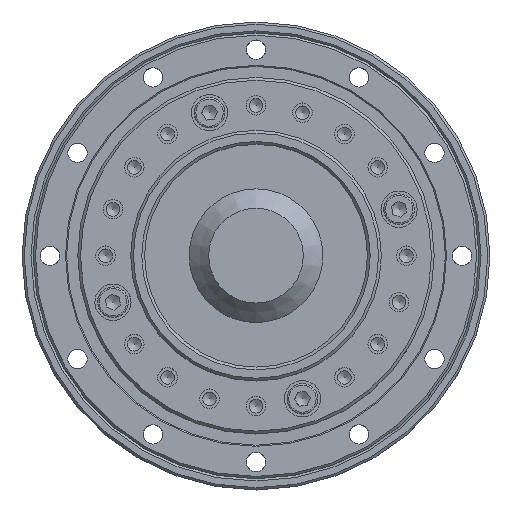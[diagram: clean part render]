
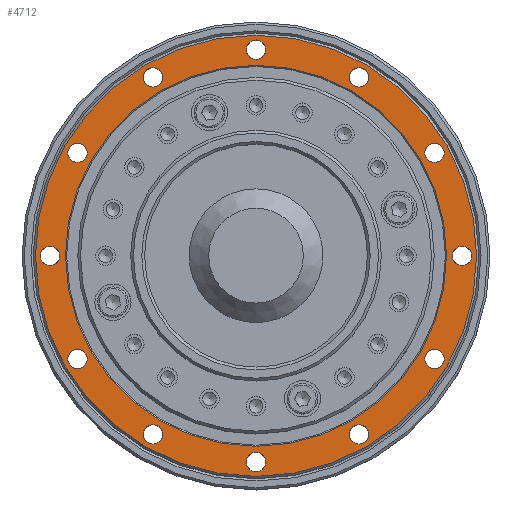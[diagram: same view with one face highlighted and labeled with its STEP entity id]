
A CAD part, top view. The second image highlights one B-rep face of the part: STEP entity #4712.
In plain terms, the highlighted planar face has unit normal (0, 0, 1).
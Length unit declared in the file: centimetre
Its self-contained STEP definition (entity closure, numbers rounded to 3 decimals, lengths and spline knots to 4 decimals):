
#473=PLANE('',#5261);
#696=FACE_BOUND('',#1556,.T.);
#697=FACE_BOUND('',#1557,.T.);
#698=FACE_BOUND('',#1558,.T.);
#699=FACE_BOUND('',#1559,.T.);
#700=FACE_BOUND('',#1560,.T.);
#701=FACE_BOUND('',#1561,.T.);
#702=FACE_BOUND('',#1562,.T.);
#703=FACE_BOUND('',#1563,.T.);
#704=FACE_BOUND('',#1564,.T.);
#705=FACE_BOUND('',#1565,.T.);
#706=FACE_BOUND('',#1566,.T.);
#707=FACE_BOUND('',#1567,.T.);
#708=FACE_BOUND('',#1568,.T.);
#1095=FACE_OUTER_BOUND('',#1555,.T.);
#1555=EDGE_LOOP('',(#3723));
#1556=EDGE_LOOP('',(#3724));
#1557=EDGE_LOOP('',(#3725));
#1558=EDGE_LOOP('',(#3726));
#1559=EDGE_LOOP('',(#3727));
#1560=EDGE_LOOP('',(#3728));
#1561=EDGE_LOOP('',(#3729));
#1562=EDGE_LOOP('',(#3730));
#1563=EDGE_LOOP('',(#3731));
#1564=EDGE_LOOP('',(#3732));
#1565=EDGE_LOOP('',(#3733));
#1566=EDGE_LOOP('',(#3734));
#1567=EDGE_LOOP('',(#3735));
#1568=EDGE_LOOP('',(#3736));
#2157=CIRCLE('',#5219,0.175);
#2159=CIRCLE('',#5222,0.175);
#2161=CIRCLE('',#5225,0.175);
#2163=CIRCLE('',#5228,0.175);
#2165=CIRCLE('',#5231,0.175);
#2167=CIRCLE('',#5234,0.175);
#2169=CIRCLE('',#5237,0.175);
#2171=CIRCLE('',#5240,0.175);
#2173=CIRCLE('',#5243,0.175);
#2175=CIRCLE('',#5246,0.175);
#2177=CIRCLE('',#5249,0.175);
#2179=CIRCLE('',#5252,0.175);
#2183=CIRCLE('',#5258,3.96);
#2185=CIRCLE('',#5262,3.42);
#2553=VERTEX_POINT('',#7840);
#2555=VERTEX_POINT('',#7845);
#2557=VERTEX_POINT('',#7850);
#2559=VERTEX_POINT('',#7855);
#2561=VERTEX_POINT('',#7860);
#2563=VERTEX_POINT('',#7865);
#2565=VERTEX_POINT('',#7870);
#2567=VERTEX_POINT('',#7875);
#2569=VERTEX_POINT('',#7880);
#2571=VERTEX_POINT('',#7885);
#2573=VERTEX_POINT('',#7890);
#2575=VERTEX_POINT('',#7895);
#2579=VERTEX_POINT('',#7905);
#2581=VERTEX_POINT('',#7911);
#3027=EDGE_CURVE('',#2553,#2553,#2157,.T.);
#3029=EDGE_CURVE('',#2555,#2555,#2159,.T.);
#3031=EDGE_CURVE('',#2557,#2557,#2161,.T.);
#3033=EDGE_CURVE('',#2559,#2559,#2163,.T.);
#3035=EDGE_CURVE('',#2561,#2561,#2165,.T.);
#3037=EDGE_CURVE('',#2563,#2563,#2167,.T.);
#3039=EDGE_CURVE('',#2565,#2565,#2169,.T.);
#3041=EDGE_CURVE('',#2567,#2567,#2171,.T.);
#3043=EDGE_CURVE('',#2569,#2569,#2173,.T.);
#3045=EDGE_CURVE('',#2571,#2571,#2175,.T.);
#3047=EDGE_CURVE('',#2573,#2573,#2177,.T.);
#3049=EDGE_CURVE('',#2575,#2575,#2179,.T.);
#3053=EDGE_CURVE('',#2579,#2579,#2183,.T.);
#3055=EDGE_CURVE('',#2581,#2581,#2185,.T.);
#3723=ORIENTED_EDGE('',*,*,#3053,.F.);
#3724=ORIENTED_EDGE('',*,*,#3049,.T.);
#3725=ORIENTED_EDGE('',*,*,#3047,.T.);
#3726=ORIENTED_EDGE('',*,*,#3045,.T.);
#3727=ORIENTED_EDGE('',*,*,#3043,.T.);
#3728=ORIENTED_EDGE('',*,*,#3041,.T.);
#3729=ORIENTED_EDGE('',*,*,#3039,.T.);
#3730=ORIENTED_EDGE('',*,*,#3037,.T.);
#3731=ORIENTED_EDGE('',*,*,#3035,.T.);
#3732=ORIENTED_EDGE('',*,*,#3033,.T.);
#3733=ORIENTED_EDGE('',*,*,#3031,.T.);
#3734=ORIENTED_EDGE('',*,*,#3029,.T.);
#3735=ORIENTED_EDGE('',*,*,#3027,.T.);
#3736=ORIENTED_EDGE('',*,*,#3055,.F.);
#4712=ADVANCED_FACE('',(#1095,#696,#697,#698,#699,#700,#701,#702,#703,#704,
#705,#706,#707,#708),#473,.T.);
#5219=AXIS2_PLACEMENT_3D('',#7841,#6243,#6244);
#5222=AXIS2_PLACEMENT_3D('',#7846,#6249,#6250);
#5225=AXIS2_PLACEMENT_3D('',#7851,#6255,#6256);
#5228=AXIS2_PLACEMENT_3D('',#7856,#6261,#6262);
#5231=AXIS2_PLACEMENT_3D('',#7861,#6267,#6268);
#5234=AXIS2_PLACEMENT_3D('',#7866,#6273,#6274);
#5237=AXIS2_PLACEMENT_3D('',#7871,#6279,#6280);
#5240=AXIS2_PLACEMENT_3D('',#7876,#6285,#6286);
#5243=AXIS2_PLACEMENT_3D('',#7881,#6291,#6292);
#5246=AXIS2_PLACEMENT_3D('',#7886,#6297,#6298);
#5249=AXIS2_PLACEMENT_3D('',#7891,#6303,#6304);
#5252=AXIS2_PLACEMENT_3D('',#7896,#6309,#6310);
#5258=AXIS2_PLACEMENT_3D('',#7906,#6321,#6322);
#5261=AXIS2_PLACEMENT_3D('',#7910,#6327,#6328);
#5262=AXIS2_PLACEMENT_3D('',#7912,#6329,#6330);
#6243=DIRECTION('center_axis',(0.,0.,-1.));
#6244=DIRECTION('ref_axis',(0.,-1.,0.));
#6249=DIRECTION('center_axis',(0.,0.,-1.));
#6250=DIRECTION('ref_axis',(0.,-1.,0.));
#6255=DIRECTION('center_axis',(0.,0.,-1.));
#6256=DIRECTION('ref_axis',(0.,-1.,0.));
#6261=DIRECTION('center_axis',(0.,0.,-1.));
#6262=DIRECTION('ref_axis',(0.,-1.,0.));
#6267=DIRECTION('center_axis',(0.,0.,-1.));
#6268=DIRECTION('ref_axis',(0.,-1.,0.));
#6273=DIRECTION('center_axis',(0.,0.,-1.));
#6274=DIRECTION('ref_axis',(0.,-1.,0.));
#6279=DIRECTION('center_axis',(0.,0.,-1.));
#6280=DIRECTION('ref_axis',(0.,-1.,0.));
#6285=DIRECTION('center_axis',(0.,0.,-1.));
#6286=DIRECTION('ref_axis',(0.,-1.,0.));
#6291=DIRECTION('center_axis',(0.,0.,-1.));
#6292=DIRECTION('ref_axis',(0.,-1.,0.));
#6297=DIRECTION('center_axis',(0.,0.,-1.));
#6298=DIRECTION('ref_axis',(0.,-1.,0.));
#6303=DIRECTION('center_axis',(0.,0.,-1.));
#6304=DIRECTION('ref_axis',(0.,-1.,0.));
#6309=DIRECTION('center_axis',(0.,0.,-1.));
#6310=DIRECTION('ref_axis',(0.,-1.,0.));
#6321=DIRECTION('center_axis',(0.,0.,-1.));
#6322=DIRECTION('ref_axis',(1.,0.,0.));
#6327=DIRECTION('center_axis',(0.,0.,1.));
#6328=DIRECTION('ref_axis',(0.,1.,0.));
#6329=DIRECTION('center_axis',(0.,0.,1.));
#6330=DIRECTION('ref_axis',(1.,0.,0.));
#7840=CARTESIAN_POINT('',(3.2043,2.025,1.54));
#7841=CARTESIAN_POINT('Origin',(3.2043,1.85,1.54));
#7845=CARTESIAN_POINT('',(3.2043,-1.675,1.54));
#7846=CARTESIAN_POINT('Origin',(3.2043,-1.85,1.54));
#7850=CARTESIAN_POINT('',(1.85,3.3793,1.54));
#7851=CARTESIAN_POINT('Origin',(1.85,3.2043,1.54));
#7855=CARTESIAN_POINT('',(-1.85,3.3793,1.54));
#7856=CARTESIAN_POINT('Origin',(-1.85,3.2043,1.54));
#7860=CARTESIAN_POINT('',(-3.7,0.175,1.54));
#7861=CARTESIAN_POINT('Origin',(-3.7,0.,1.54));
#7865=CARTESIAN_POINT('',(-1.85,-3.0293,1.54));
#7866=CARTESIAN_POINT('Origin',(-1.85,-3.2043,1.54));
#7870=CARTESIAN_POINT('',(0.,-3.525,1.54));
#7871=CARTESIAN_POINT('Origin',(0.,-3.7,1.54));
#7875=CARTESIAN_POINT('',(-3.2043,-1.675,1.54));
#7876=CARTESIAN_POINT('Origin',(-3.2043,-1.85,1.54));
#7880=CARTESIAN_POINT('',(-3.2043,2.025,1.54));
#7881=CARTESIAN_POINT('Origin',(-3.2043,1.85,1.54));
#7885=CARTESIAN_POINT('',(0.,3.875,1.54));
#7886=CARTESIAN_POINT('Origin',(0.,3.7,1.54));
#7890=CARTESIAN_POINT('',(1.85,-3.0293,1.54));
#7891=CARTESIAN_POINT('Origin',(1.85,-3.2043,1.54));
#7895=CARTESIAN_POINT('',(3.7,0.175,1.54));
#7896=CARTESIAN_POINT('Origin',(3.7,0.,1.54));
#7905=CARTESIAN_POINT('',(-3.96,0.,1.54));
#7906=CARTESIAN_POINT('Origin',(0.,0.,1.54));
#7910=CARTESIAN_POINT('Origin',(-4.,0.,1.54));
#7911=CARTESIAN_POINT('',(-3.42,0.,1.54));
#7912=CARTESIAN_POINT('Origin',(0.,0.,1.54));
